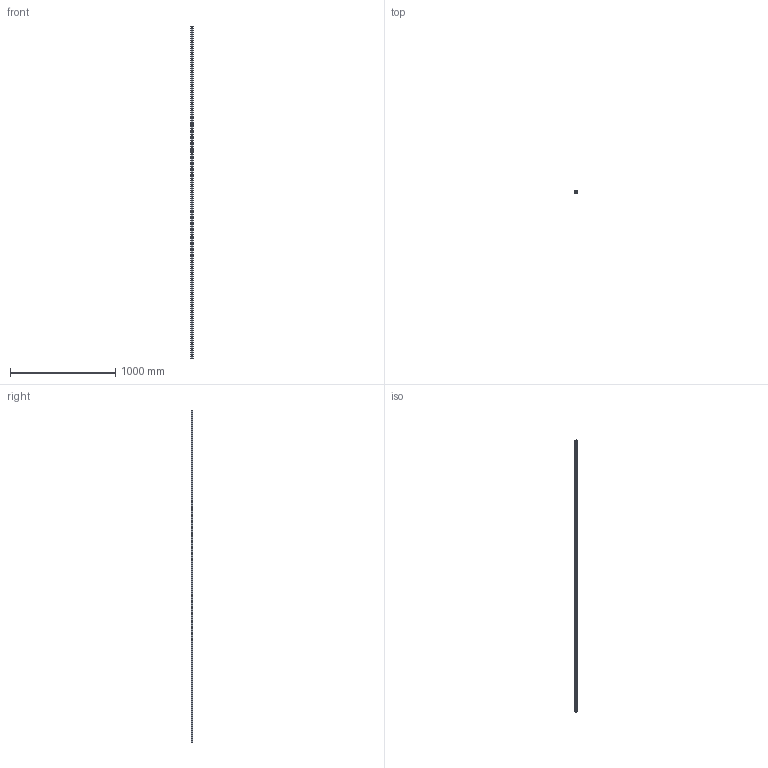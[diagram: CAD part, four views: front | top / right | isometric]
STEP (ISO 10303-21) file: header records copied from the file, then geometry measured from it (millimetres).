
FILE_DESCRIPTION (( 'STEP AP203' ), '1' );
FILE_NAME ('L1016.BL20-3160.step', '2019-06-12T11:55:57', ( '' ), ( '' ), 'SwSTEP 2.0', 'SolidWorks 2017', '' );
FILE_SCHEMA (( 'CONFIG_CONTROL_DESIGN' ));
Length unit declared in the file: millimetre
Products named in the file (1): L1016.BL20-3160
Bounding box: 20 x 16.3 x 3160 mm (x, y, z)
Volume: 878411.7 mm3; surface area: 254126.3 mm2
Topology: 1 solids, 1 shells, 291 faces, 708 edges, 472 vertices
Faces by surface type: cylinder 216, plane 75
Entity records: 9063 total; most frequent: DIRECTION 1724, CARTESIAN_POINT 1472, ORIENTED_EDGE 1416, AXIS2_PLACEMENT_3D 724, EDGE_CURVE 708, VERTEX_POINT 472, EDGE_LOOP 450, CIRCLE 432
